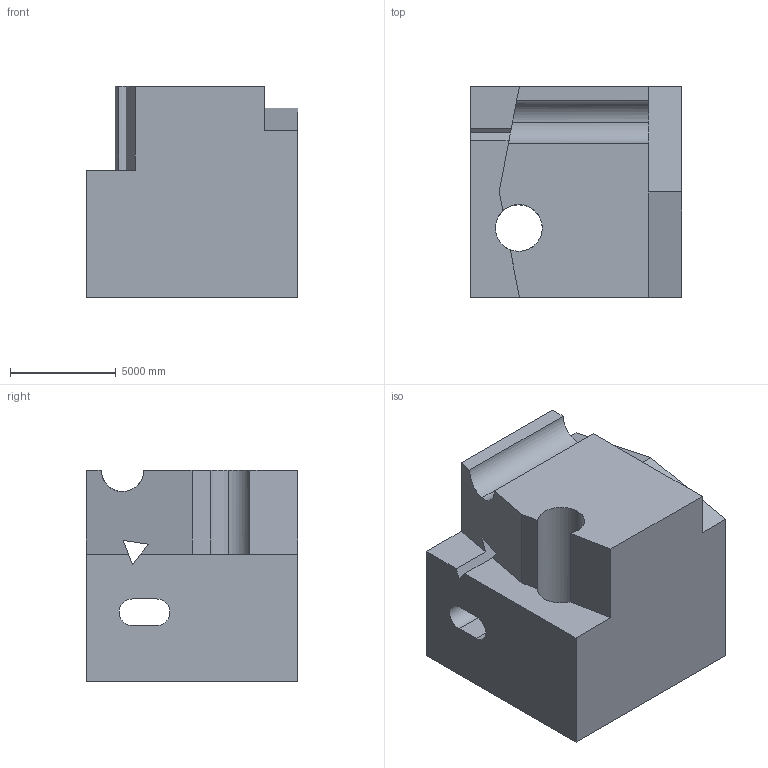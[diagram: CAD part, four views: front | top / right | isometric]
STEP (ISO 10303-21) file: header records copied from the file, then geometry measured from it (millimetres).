
FILE_DESCRIPTION (( 'STEP AP203' ), '1' );
FILE_NAME ('1723.STEP', '2022-08-19T12:05:21', ( 'user' ), ( '' ), 'SwSTEP 2.0', 'SolidWorks 2021', '' );
FILE_SCHEMA (( 'CONFIG_CONTROL_DESIGN' ));
Length unit declared in the file: centimetre
Products named in the file (1): 1723
Bounding box: 10000 x 10000 x 10000 mm (x, y, z)
Volume: 819488453476.9 mm3; surface area: 726734300.2 mm2
Topology: 1 solids, 1 shells, 35 faces, 102 edges, 68 vertices
Faces by surface type: plane 27, cylinder 8
Entity records: 1241 total; most frequent: CARTESIAN_POINT 212, ORIENTED_EDGE 204, DIRECTION 188, EDGE_CURVE 102, VECTOR 84, LINE 84, VERTEX_POINT 68, AXIS2_PLACEMENT_3D 52
